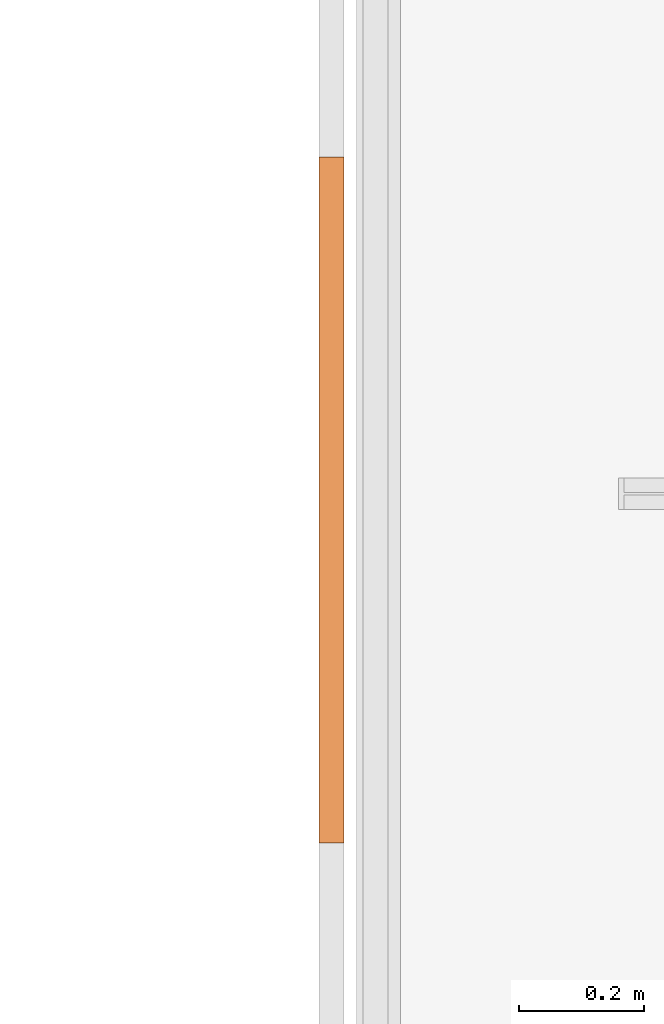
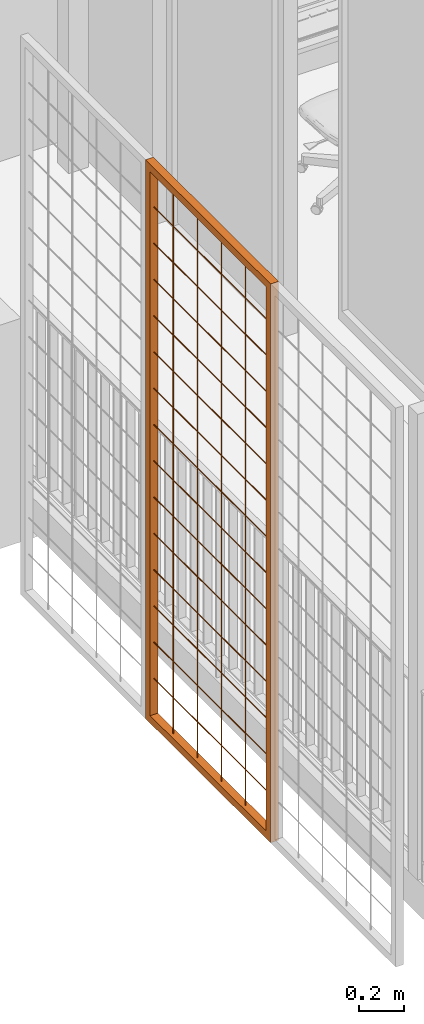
# One storey, part 45 of 51: 2 proxies.
"""IFC2X3 building model written with IfcOpenShell, lengths in metres."""

from ifc_helpers import new_model, entity, si_unit, converted_unit, derived_unit, direction, frame, origin, origin_2d_with_axis, place, context, subcontext, project, spatial, polyline, rectangle, outline, extrude, source, transform, mapped, material, type_object, type_shapes, element, save


model = new_model("IFC2X3")

# Units and contexts
model_context = context("Model", 3, precision=1e-05, world=origin(), true_north=direction((6.123031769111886e-17, 1.0)))
body_context = subcontext(model_context, "Body", "Model", "MODEL_VIEW")
ifc_project = project(units=[si_unit("LENGTHUNIT", "METRE"), si_unit("AREAUNIT", "SQUARE_METRE"), si_unit("VOLUMEUNIT", "CUBIC_METRE"), converted_unit("PLANEANGLEUNIT", "DEGREE", entity("IfcRatioMeasure", 0.017453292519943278), si_unit("PLANEANGLEUNIT", "RADIAN"), dimensions=[0, 0, 0, 0, 0, 0, 0]), si_unit("MASSUNIT", "GRAM", prefix="KILO"), derived_unit("MASSDENSITYUNIT", [(si_unit("MASSUNIT", "GRAM", prefix="KILO"), 1), (si_unit("LENGTHUNIT", "METRE"), -3)]), derived_unit("MOMENTOFINERTIAUNIT", [(si_unit("LENGTHUNIT", "METRE"), 4)]), si_unit("TIMEUNIT", "SECOND"), si_unit("FREQUENCYUNIT", "HERTZ"), si_unit("THERMODYNAMICTEMPERATUREUNIT", "DEGREE_CELSIUS"), derived_unit("THERMALTRANSMITTANCEUNIT", [(si_unit("MASSUNIT", "GRAM", prefix="KILO"), 1), (si_unit("THERMODYNAMICTEMPERATUREUNIT", "KELVIN"), -1), (si_unit("TIMEUNIT", "SECOND"), -3)]), derived_unit("THERMALCONDUCTANCEUNIT", [(si_unit("MASSUNIT", "GRAM", prefix="KILO"), 1), (si_unit("LENGTHUNIT", "METRE"), 1), (si_unit("THERMODYNAMICTEMPERATUREUNIT", "KELVIN"), -1), (si_unit("TIMEUNIT", "SECOND"), -3)]), derived_unit("VOLUMETRICFLOWRATEUNIT", [(si_unit("LENGTHUNIT", "METRE"), 3), (si_unit("TIMEUNIT", "SECOND"), -1)]), derived_unit("MASSFLOWRATEUNIT", [(si_unit("MASSUNIT", "GRAM", prefix="KILO"), 1), (si_unit("TIMEUNIT", "SECOND"), -1)]), derived_unit("ROTATIONALFREQUENCYUNIT", [(si_unit("TIMEUNIT", "SECOND"), -1)]), si_unit("ELECTRICCURRENTUNIT", "AMPERE"), si_unit("ELECTRICVOLTAGEUNIT", "VOLT"), si_unit("POWERUNIT", "WATT"), si_unit("FORCEUNIT", "NEWTON", prefix="KILO"), si_unit("ILLUMINANCEUNIT", "LUX"), si_unit("LUMINOUSFLUXUNIT", "LUMEN"), si_unit("LUMINOUSINTENSITYUNIT", "CANDELA"), derived_unit("USERDEFINED", [(si_unit("MASSUNIT", "GRAM", prefix="KILO"), -1), (si_unit("LENGTHUNIT", "METRE"), -2), (si_unit("TIMEUNIT", "SECOND"), 3), (si_unit("LUMINOUSFLUXUNIT", "LUMEN"), 1)]), derived_unit("USERDEFINED", [(si_unit("MASSUNIT", "GRAM", prefix="KILO"), 1), (si_unit("LENGTHUNIT", "METRE"), 3), (si_unit("TIMEUNIT", "SECOND"), -3), (si_unit("ELECTRICCURRENTUNIT", "AMPERE"), -2)]), derived_unit("USERDEFINED", [(si_unit("LENGTHUNIT", "METRE"), 2), (si_unit("TIMEUNIT", "SECOND"), -2)]), derived_unit("SOUNDPOWERUNIT", [(si_unit("MASSUNIT", "GRAM", prefix="KILO"), 1), (si_unit("LENGTHUNIT", "METRE"), 2), (si_unit("TIMEUNIT", "SECOND"), -3)]), derived_unit("SOUNDPRESSUREUNIT", [(si_unit("MASSUNIT", "GRAM", prefix="KILO"), 1), (si_unit("LENGTHUNIT", "METRE"), -1), (si_unit("TIMEUNIT", "SECOND"), -2)]), derived_unit("LINEARVELOCITYUNIT", [(si_unit("LENGTHUNIT", "METRE"), 1), (si_unit("TIMEUNIT", "SECOND"), -1)]), si_unit("PRESSUREUNIT", "PASCAL"), derived_unit("USERDEFINED", [(si_unit("LENGTHUNIT", "METRE"), -2), (si_unit("MASSUNIT", "GRAM", prefix="KILO"), 1), (si_unit("TIMEUNIT", "SECOND"), -2)]), derived_unit("LINEARFORCEUNIT", [(si_unit("MASSUNIT", "GRAM", prefix="KILO"), 1), (si_unit("LENGTHUNIT", "METRE"), 1), (si_unit("TIMEUNIT", "SECOND"), -2), (si_unit("LENGTHUNIT", "METRE"), -1)]), derived_unit("PLANARFORCEUNIT", [(si_unit("MASSUNIT", "GRAM", prefix="KILO"), 1), (si_unit("LENGTHUNIT", "METRE"), 1), (si_unit("TIMEUNIT", "SECOND"), -2), (si_unit("LENGTHUNIT", "METRE"), -2)]), derived_unit("SPECIFICHEATCAPACITYUNIT", [(si_unit("LENGTHUNIT", "METRE"), 2), (si_unit("TIMEUNIT", "SECOND"), -2), (si_unit("THERMODYNAMICTEMPERATUREUNIT", "KELVIN"), -1)]), derived_unit("VAPORPERMEABILITYUNIT", [(si_unit("TIMEUNIT", "SECOND"), 1), (si_unit("LENGTHUNIT", "METRE"), -1)]), derived_unit("DYNAMICVISCOSITYUNIT", [(si_unit("MASSUNIT", "GRAM", prefix="KILO"), 1), (si_unit("LENGTHUNIT", "METRE"), -1), (si_unit("TIMEUNIT", "SECOND"), -1)]), derived_unit("THERMALEXPANSIONCOEFFICIENTUNIT", [(si_unit("THERMODYNAMICTEMPERATUREUNIT", "KELVIN"), -1)])], contexts=[model_context])

# Site, building, storey
site_placement = place(None, origin())
site = spatial("IfcSite", under=ifc_project, at=site_placement, Name="Default", CompositionType="ELEMENT")
building_placement = place(site_placement, origin())
building = spatial("IfcBuilding", under=site, at=building_placement, CompositionType="ELEMENT")
storey_placement = place(building_placement, frame((0.0, 0.0, 3.06)))
storey = spatial("IfcBuildingStorey", under=building, at=storey_placement, Name="ÉTAGE", CompositionType="ELEMENT", Elevation=3.06)

# Proxies
ifc_material = material(Name="Peinture - Gris foncé")
building_element_proxy_type_1 = type_object("IfcBuildingElementProxyType", Name="Symb-0003", PredefinedType="NOTDEFINED", material=ifc_material)
shared_shape_1 = source(origin(), body_context, "Body", "SweptSolid", [
    extrude(outline(polyline([(-0.0011785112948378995, -0.002357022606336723), (0.0, -0.0023570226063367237), (0.001767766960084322, -0.0017677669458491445), (0.002357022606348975, 0.0), (0.0023570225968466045, 0.0011785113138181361), (0.0011785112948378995, 0.002357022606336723), (0.0, 0.002357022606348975), (-0.001767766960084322, 0.0017677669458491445), (-0.0023570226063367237, 0.0), (-0.0023570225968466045, -0.0011785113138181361), (-0.0011785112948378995, -0.002357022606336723)])), frame((139.86075228, 21.577209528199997, 6.7275), z_axis=(0.0, 1.0, 0.0), x_axis=(-0.7071067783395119, 0.0, -0.7071067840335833)), (0.0, 0.0, 1.0), 1.0200000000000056),
    extrude(outline(polyline([(-0.0011785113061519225, -0.0023570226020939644), (0.0, -0.002357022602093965), (0.0017677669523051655, -0.001767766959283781), (0.0023570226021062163, 0.0), (0.002357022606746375, 0.0011785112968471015), (0.0011785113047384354, 0.0023570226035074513), (0.0, 0.0023570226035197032), (-0.0017677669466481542, 0.0017677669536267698), (-0.002357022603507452, 0.0), (-0.0023570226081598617, -0.0011785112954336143), (-0.0011785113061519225, -0.0023570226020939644)])), frame((139.86075228, 21.577209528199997, 6.532833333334), z_axis=(0.0, 1.0, 0.0), x_axis=(-0.7071067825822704, 0.0, -0.7071067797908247)), (0.0, 0.0, 1.0), 1.0200000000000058),
    extrude(outline(polyline([(-0.001178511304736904, -0.002357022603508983), (0.0, -0.002357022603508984), (0.0017677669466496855, -0.001767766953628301), (0.002357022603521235, 0.0), (0.0023570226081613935, 0.0011785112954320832), (0.0011785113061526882, 0.002357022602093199), (0.0, 0.002357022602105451), (-0.0017677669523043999, 0.0017677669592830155), (-0.0023570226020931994, 0.0), (-0.0023570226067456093, -0.0011785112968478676), (-0.001178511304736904, -0.002357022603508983)])), frame((139.86075228, 21.577209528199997, 6.338166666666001), z_axis=(0.0, 1.0, 0.0), x_axis=(-0.7071067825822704, 0.0, -0.7071067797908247)), (0.0, 0.0, 1.0), 1.0200000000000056),
    extrude(outline(polyline([(-0.0011785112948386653, -0.0023570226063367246), (0.0, -0.0023570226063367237), (0.0017677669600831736, -0.001767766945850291), (0.002357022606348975, 0.0), (0.0023570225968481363, 0.001178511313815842), (0.0011785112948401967, 0.0023570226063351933), (0.0, 0.002357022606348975), (-0.001767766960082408, 0.0017677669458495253), (-0.0023570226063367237, 0.0), (-0.002357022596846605, -0.0011785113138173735), (-0.0011785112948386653, -0.0023570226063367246)])), frame((139.86075228, 21.577209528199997, 6.1435), z_axis=(0.0, 1.0, 0.0), x_axis=(-0.7071067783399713, 0.0, -0.7071067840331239)), (0.0, 0.0, 1.0), 1.0200000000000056),
    extrude(outline(polyline([(-0.0011785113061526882, -0.002357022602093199), (0.0, -0.0023570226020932), (0.0017677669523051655, -0.001767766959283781), (0.002357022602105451, 0.0), (0.0023570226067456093, 0.0011785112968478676), (0.0011785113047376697, 0.002357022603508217), (0.0, 0.0023570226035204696), (-0.0017677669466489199, 0.0017677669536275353), (-0.002357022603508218, 0.0), (-0.0023570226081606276, -0.0011785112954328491), (-0.0011785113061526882, -0.002357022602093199)])), frame((139.86075228, 21.577209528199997, 5.948833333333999), z_axis=(0.0, 1.0, 0.0), x_axis=(-0.7071067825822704, 0.0, -0.7071067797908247)), (0.0, 0.0, 1.0), 1.0200000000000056),
    extrude(outline(polyline([(-0.0011785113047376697, -0.002357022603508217), (0.0, -0.002357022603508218), (0.0017677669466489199, -0.0017677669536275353), (0.0023570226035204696, 0.0), (0.0023570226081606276, 0.0011785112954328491), (0.0011785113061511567, 0.0023570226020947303), (0.0, 0.0023570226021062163), (-0.0017677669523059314, 0.0017677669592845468), (-0.0023570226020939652, 0.0), (-0.0023570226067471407, -0.0011785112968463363), (-0.0011785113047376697, -0.002357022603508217)])), frame((139.86075228, 21.577209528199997, 5.754166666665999), z_axis=(0.0, 1.0, 0.0), x_axis=(-0.7071067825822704, 0.0, -0.7071067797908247)), (0.0, 0.0, 1.0), 1.0200000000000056),
    extrude(outline(polyline([(-0.001178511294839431, -0.0023570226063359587), (0.0, -0.002357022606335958), (0.001767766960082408, -0.0017677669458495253), (0.0023570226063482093, 0.0), (0.0023570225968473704, 0.0011785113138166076), (0.001178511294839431, 0.0023570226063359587), (0.0, 0.0023570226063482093), (-0.001767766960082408, 0.0017677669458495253), (-0.002357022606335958, 0.0), (-0.0023570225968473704, -0.0011785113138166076), (-0.001178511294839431, -0.0023570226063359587)])), frame((139.86075228, 21.577209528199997, 5.5595), z_axis=(0.0, 1.0, 0.0), x_axis=(-0.7071067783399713, 0.0, -0.7071067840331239)), (0.0, 0.0, 1.0), 1.0200000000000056),
    extrude(outline(polyline([(-0.0011785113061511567, -0.0023570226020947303), (0.0, -0.002357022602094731), (0.001767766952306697, -0.0017677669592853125), (0.002357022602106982, 0.0), (0.0023570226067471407, 0.0011785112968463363), (0.001178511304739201, 0.0023570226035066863), (0.0, 0.0023570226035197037), (-0.0017677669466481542, 0.0017677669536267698), (-0.002357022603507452, 0.0), (-0.0023570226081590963, -0.0011785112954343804), (-0.0011785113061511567, -0.0023570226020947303)])), frame((139.86075228, 21.577209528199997, 5.364833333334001), z_axis=(0.0, 1.0, 0.0), x_axis=(-0.7071067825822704, 0.0, -0.7071067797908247)), (0.0, 0.0, 1.0), 1.0200000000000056),
    extrude(outline(polyline([(-0.001178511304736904, -0.002357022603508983), (0.0, -0.002357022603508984), (0.0017677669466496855, -0.001767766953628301), (0.002357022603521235, 0.0), (0.0023570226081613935, 0.0011785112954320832), (0.0011785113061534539, 0.002357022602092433), (0.0, 0.002357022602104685), (-0.0017677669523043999, 0.0017677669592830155), (-0.002357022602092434, 0.0), (-0.0023570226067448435, -0.0011785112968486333), (-0.001178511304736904, -0.002357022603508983)])), frame((139.86075228, 21.577209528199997, 5.1701666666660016), z_axis=(0.0, 1.0, 0.0), x_axis=(-0.7071067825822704, 0.0, -0.7071067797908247)), (0.0, 0.0, 1.0), 1.0200000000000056),
    extrude(outline(polyline([(-0.001178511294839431, -0.0023570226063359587), (0.0, -0.002357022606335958), (0.001767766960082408, -0.0017677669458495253), (0.0023570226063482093, 0.0), (0.0023570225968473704, 0.0011785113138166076), (0.0011785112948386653, 0.0023570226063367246), (0.0, 0.0023570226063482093), (-0.0017677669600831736, 0.001767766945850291), (-0.002357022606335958, 0.0), (-0.0023570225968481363, -0.001178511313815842), (-0.001178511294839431, -0.0023570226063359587)])), frame((139.86075228, 21.577209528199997, 4.975499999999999), z_axis=(0.0, 1.0, 0.0), x_axis=(-0.7071067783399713, 0.0, -0.7071067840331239)), (0.0, 0.0, 1.0), 1.0200000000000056),
    extrude(outline(polyline([(-0.0011785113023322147, -0.0023570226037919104), (0.0, -0.002357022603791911), (0.0017677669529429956, -0.0017677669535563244), (0.002357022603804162, 0.0), (0.002357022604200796, 0.0011785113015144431), (0.0011785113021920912, 0.002357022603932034), (0.0, 0.0023570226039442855), (-0.001767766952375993, 0.0017677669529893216), (-0.0023570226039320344, 0.0), (-0.0023570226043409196, -0.0011785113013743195), (-0.0011785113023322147, -0.0023570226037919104)])), frame((139.86075228, 21.577209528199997, 4.780833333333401), z_axis=(0.0, 1.0, 0.0), x_axis=(-0.7071067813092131, 0.0, -0.7071067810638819)), (0.0, 0.0, 1.0), 1.0200000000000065),
    extrude(outline(polyline([(-0.0011785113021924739, -0.0023570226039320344), (0.0, -0.0023570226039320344), (0.0017677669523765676, -0.0017677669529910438), (0.002357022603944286, 0.0), (0.0023570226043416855, 0.0011785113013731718), (0.0011785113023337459, 0.002357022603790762), (0.0, 0.0023570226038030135), (-0.0017677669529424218, 0.0017677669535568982), (-0.0023570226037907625, 0.0), (-0.002357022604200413, -0.001178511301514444), (-0.0011785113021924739, -0.0023570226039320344)])), frame((139.86075228, 21.577209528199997, 4.5861666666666), z_axis=(0.0, 1.0, 0.0), x_axis=(-0.7071067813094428, 0.0, -0.7071067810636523)), (0.0, 0.0, 1.0), 1.0200000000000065),
    extrude(outline(polyline([(-0.0011785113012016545, -0.0023570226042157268), (0.0, -0.002357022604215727), (0.001767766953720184, -0.0017677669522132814), (0.0023570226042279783, 0.0), (0.0023570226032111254, 0.0011785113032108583), (0.001178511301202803, 0.0023570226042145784), (0.0, 0.002357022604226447), (-0.0017677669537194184, 0.0017677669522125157), (-0.002357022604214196, 0.0), (-0.0023570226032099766, -0.0011785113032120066), (-0.0011785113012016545, -0.0023570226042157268)])), frame((139.86075228, 21.577209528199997, 4.391500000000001), z_axis=(0.0, 1.0, 0.0), x_axis=(-0.707106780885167, 0.0, -0.707106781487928)), (0.0, 0.0, 1.0), 1.0200000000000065),
    extrude(outline(polyline([(-0.0011785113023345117, -0.0023570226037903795), (0.0, -0.0023570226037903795), (0.0017677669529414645, -0.0017677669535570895), (0.0023570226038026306, 0.0), (0.002357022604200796, 0.0011785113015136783), (0.001178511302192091, 0.0023570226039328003), (0.0, 0.002357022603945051), (-0.00176776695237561, 0.001767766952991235), (-0.0023570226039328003, 0.0), (-0.002357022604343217, -0.0011785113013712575), (-0.0011785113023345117, -0.0023570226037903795)])), frame((139.86075228, 21.577209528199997, 4.196833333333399), z_axis=(0.0, 1.0, 0.0), x_axis=(-0.7071067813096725, 0.0, -0.7071067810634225)), (0.0, 0.0, 1.0), 1.0200000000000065),
    extrude(outline(polyline([(-0.001178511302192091, -0.002357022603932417), (0.0, -0.0023570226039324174), (0.0017677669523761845, -0.0017677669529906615), (0.0023570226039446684, 0.0), (0.0023570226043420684, 0.0011785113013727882), (0.0011785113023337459, 0.002357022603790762), (0.0, 0.0023570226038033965), (-0.001767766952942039, 0.001767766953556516), (-0.0023570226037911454, 0.0), (-0.002357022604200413, -0.0011785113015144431), (-0.001178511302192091, -0.002357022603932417)])), frame((139.86075228, 21.577209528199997, 4.0021666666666), z_axis=(0.0, 1.0, 0.0), x_axis=(-0.7071067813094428, 0.0, -0.7071067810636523)), (0.0, 0.0, 1.0), 1.0200000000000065),
    extrude(rectangle(XDim=1.1000000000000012, YDim=0.039999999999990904, at=origin_2d_with_axis()), frame((139.86075227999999, 22.0872095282, 6.73), z_axis=(0.0, 0.0, 1.0), x_axis=(0.0, 1.0, 0.0)), (0.0, 0.0, 1.0), 0.03999999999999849),
    extrude(rectangle(XDim=1.1000000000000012, YDim=0.039999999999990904, at=origin_2d_with_axis()), frame((139.86075227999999, 22.0872095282, 3.7699999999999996), z_axis=(0.0, 0.0, 1.0), x_axis=(0.0, 1.0, 0.0)), (0.0, 0.0, 1.0), 0.04000000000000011),
    extrude(rectangle(XDim=0.03999999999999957, YDim=0.039999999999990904, at=origin_2d_with_axis()), frame((139.86075227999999, 21.557209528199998, 3.8099999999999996), z_axis=(0.0, 0.0, 1.0), x_axis=(0.0, 1.0, 0.0)), (0.0, 0.0, 1.0), 2.9200000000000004),
    extrude(rectangle(XDim=0.03999999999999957, YDim=0.039999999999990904, at=origin_2d_with_axis()), frame((139.86075227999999, 22.6172095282, 3.8099999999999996), z_axis=(0.0, 0.0, 1.0), x_axis=(0.0, 1.0, 0.0)), (0.0, 0.0, 1.0), 2.9200000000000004),
])
type_shapes(building_element_proxy_type_1, [shared_shape_1])
proxy_1_placement = place(storey_placement, frame((0.0, 0.0, -3.06)))
element("IfcBuildingElementProxy", 1, at=proxy_1_placement, inside=storey, type_object=building_element_proxy_type_1, material=ifc_material, Name="Symb-0003 283937:Symb-0003 283937", ObjectType="Symb-0003 283937:Symb-0003 283937", context=body_context, shape_type="MappedRepresentation", body=[
    mapped(shared_shape_1, transform((0.0, 0.0, 0.0), scale=1.0)),
])
building_element_proxy_type_2 = type_object("IfcBuildingElementProxyType", Name="Symb-0003", PredefinedType="NOTDEFINED", material=ifc_material)
shared_shape_2 = source(origin(), body_context, "Body", "SweptSolid", [
    extrude(outline(polyline([(-0.0011180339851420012, -0.0022360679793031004), (0.0007453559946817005, -0.0022360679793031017), (0.0018633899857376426, -0.0018633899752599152), (0.0026087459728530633, -0.00037267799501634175), (0.0022360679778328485, 0.0007453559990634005), (0.0011180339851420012, 0.0022360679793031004), (-0.0007453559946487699, 0.002236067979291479), (-0.0018633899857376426, 0.0018633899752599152), (-0.002608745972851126, 0.0003726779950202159), (-0.002236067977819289, -0.000745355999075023), (-0.0011180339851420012, -0.0022360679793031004)])), frame((139.86075228, 21.5797095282, 3.81), z_axis=(0.0, 0.0, 1.0), x_axis=(-0.8944271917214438, -0.4472135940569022, 0.0)), (0.0, 0.0, 1.0), 2.9200000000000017),
    extrude(outline(polyline([(-0.0011180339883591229, -0.0022360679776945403), (0.0007453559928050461, -0.00223606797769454), (0.0018633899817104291, -0.0018633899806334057), (0.0026087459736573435, -0.0003726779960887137), (0.0022360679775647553, 0.0007453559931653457), (0.0011180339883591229, 0.0022360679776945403), (-0.0007453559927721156, 0.0022360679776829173), (-0.0018633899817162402, 0.001863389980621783), (-0.0026087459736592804, 0.00037267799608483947), (-0.0022360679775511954, -0.0007453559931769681), (-0.0011180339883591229, -0.0022360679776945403)])), frame((139.86075228, 21.7917095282, 3.81), z_axis=(0.0, 0.0, 1.0), x_axis=(-0.8944271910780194, -0.4472135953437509, 0.0)), (0.0, 0.0, 1.0), 2.920000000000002),
    extrude(outline(polyline([(-0.0011180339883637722, -0.002236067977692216), (0.0007453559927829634, -0.0022360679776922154), (0.0018633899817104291, -0.0018633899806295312), (0.002608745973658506, -0.00037267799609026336), (0.002236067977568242, 0.0007453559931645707), (0.0011180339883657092, 0.00223606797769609), (-0.0007453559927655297, 0.0022360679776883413), (-0.0018633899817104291, 0.0018633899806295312), (-0.002608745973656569, 0.0003726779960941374), (-0.002236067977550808, -0.0007453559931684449), (-0.0011180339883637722, -0.002236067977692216)])), frame((139.86075228, 22.0037095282, 3.81), z_axis=(0.0, 0.0, 1.0), x_axis=(-0.8944271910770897, -0.4472135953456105, 0.0)), (0.0, 0.0, 1.0), 2.920000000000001),
    extrude(outline(polyline([(-0.0011180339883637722, -0.002236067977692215), (0.0007453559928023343, -0.002236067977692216), (0.0018633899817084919, -0.0018633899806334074), (0.002608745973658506, -0.00037267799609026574), (0.002236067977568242, 0.0007453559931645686), (0.0011180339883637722, 0.002236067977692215), (-0.0007453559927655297, 0.0022360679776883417), (-0.0018633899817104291, 0.0018633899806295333), (-0.002608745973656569, 0.00037267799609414), (-0.002236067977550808, -0.0007453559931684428), (-0.0011180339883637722, -0.002236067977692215)])), frame((139.86075228, 22.2157095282, 3.81), z_axis=(0.0, 0.0, 1.0), x_axis=(-0.8944271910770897, -0.4472135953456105, 0.0)), (0.0, 0.0, 1.0), 2.920000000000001),
    extrude(outline(polyline([(-0.0011180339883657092, -0.00223606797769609), (0.0007453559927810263, -0.0022360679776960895), (0.0018633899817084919, -0.0018633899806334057), (0.002608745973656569, -0.0003726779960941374), (0.0022360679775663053, 0.0007453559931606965), (0.0011180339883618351, 0.0022360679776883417), (-0.0007453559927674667, 0.0022360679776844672), (-0.0018633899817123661, 0.001863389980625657), (-0.002608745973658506, 0.00037267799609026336), (-0.0022360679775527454, -0.000745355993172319), (-0.0011180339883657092, -0.00223606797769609)])), frame((139.86075228, 22.427709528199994, 3.81), z_axis=(0.0, 0.0, 1.0), x_axis=(-0.8944271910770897, -0.4472135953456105, 0.0)), (0.0, 0.0, 1.0), 2.920000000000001),
    extrude(rectangle(XDim=1.1000000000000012, YDim=0.039999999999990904, at=origin_2d_with_axis()), frame((139.86075227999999, 22.0872095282, 6.73), z_axis=(0.0, 0.0, 1.0), x_axis=(0.0, 1.0, 0.0)), (0.0, 0.0, 1.0), 0.03999999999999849),
    extrude(rectangle(XDim=1.1000000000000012, YDim=0.039999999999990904, at=origin_2d_with_axis()), frame((139.86075227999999, 22.0872095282, 3.7699999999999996), z_axis=(0.0, 0.0, 1.0), x_axis=(0.0, 1.0, 0.0)), (0.0, 0.0, 1.0), 0.04000000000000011),
    extrude(rectangle(XDim=0.03999999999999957, YDim=0.039999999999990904, at=origin_2d_with_axis()), frame((139.86075227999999, 21.557209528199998, 3.8099999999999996), z_axis=(0.0, 0.0, 1.0), x_axis=(0.0, 1.0, 0.0)), (0.0, 0.0, 1.0), 2.9200000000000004),
    extrude(rectangle(XDim=0.03999999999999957, YDim=0.039999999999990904, at=origin_2d_with_axis()), frame((139.86075227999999, 22.6172095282, 3.8099999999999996), z_axis=(0.0, 0.0, 1.0), x_axis=(0.0, 1.0, 0.0)), (0.0, 0.0, 1.0), 2.9200000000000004),
])
type_shapes(building_element_proxy_type_2, [shared_shape_2])
proxy_2_placement = place(storey_placement, frame((0.0, 0.0, -3.06)))
element("IfcBuildingElementProxy", 2, at=proxy_2_placement, inside=storey, type_object=building_element_proxy_type_2, material=ifc_material, Name="Symb-0003 464666:Symb-0003 464666", ObjectType="Symb-0003 464666:Symb-0003 464666", context=body_context, shape_type="MappedRepresentation", body=[
    mapped(shared_shape_2, transform((0.0, 0.0, 0.0), scale=1.0)),
])

save(model, "model.ifc")
